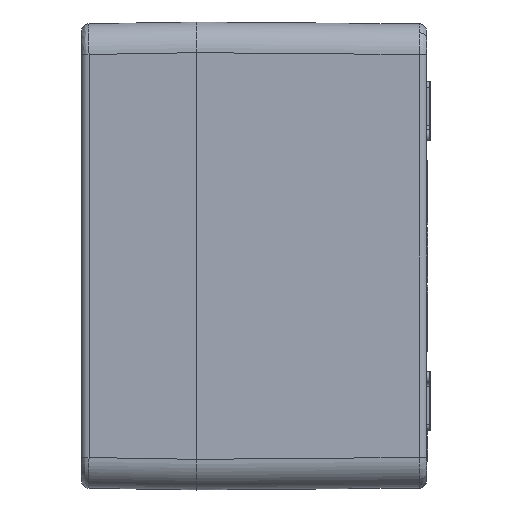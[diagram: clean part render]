
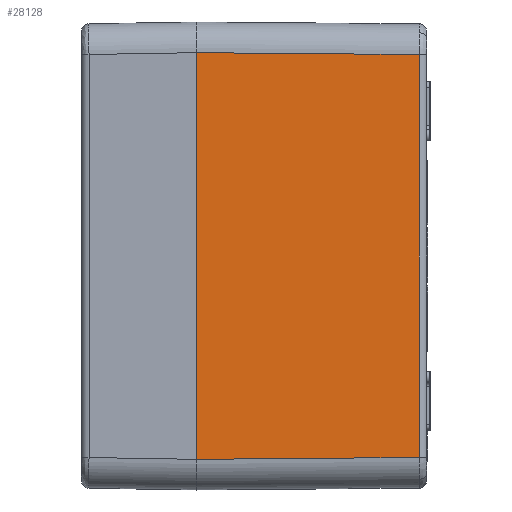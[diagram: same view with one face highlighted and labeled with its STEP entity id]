
A CAD part, left-side view. The second image highlights one B-rep face of the part: STEP entity #28128.
In plain terms, the highlighted planar face has unit normal (-1, -0.008, 0) as drawn and (1, -0.008, 0) by its records, which use the part's own axes.
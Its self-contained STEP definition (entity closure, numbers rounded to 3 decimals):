
#6386=DIRECTION('',(0.,0.,1.));
#6387=VECTOR('',#6386,106.001);
#6388=CARTESIAN_POINT('',(110.,0.,-53.));
#6389=LINE('',#6388,#6387);
#6399=CARTESIAN_POINT('',(110.,0.,53.));
#7207=DIRECTION('',(0.,0.,1.));
#7208=VECTOR('',#7207,105.034);
#7209=CARTESIAN_POINT('',(109.517,-58.017,
-52.517));
#7210=LINE('',#7209,#7208);
#7214=DIRECTION('',(0.008,1.,0.008));
#7215=VECTOR('',#7214,58.021);
#7216=CARTESIAN_POINT('',(109.516,-58.017,52.517));
#7217=LINE('',#7216,#7215);
#7221=DIRECTION('',(0.008,1.,-0.008));
#7222=VECTOR('',#7221,58.021);
#7223=CARTESIAN_POINT('',(109.517,-58.017,
-52.517));
#7224=LINE('',#7223,#7222);
#7239=CARTESIAN_POINT('',(109.516,-58.017,52.517));
#22972=VERTEX_POINT('',#6399);
#22975=CARTESIAN_POINT('',(110.,0.,-53.));
#22976=VERTEX_POINT('',#22975);
#23021=VERTEX_POINT('',#7239);
#23024=CARTESIAN_POINT('',(109.517,-58.017,
-52.517));
#23025=VERTEX_POINT('',#23024);
#28115=CARTESIAN_POINT('',(109.75,-30.,0.));
#28116=DIRECTION('',(1.,-0.008,0.));
#28117=DIRECTION('',(0.008,1.,0.));
#28118=AXIS2_PLACEMENT_3D('',#28115,#28116,#28117);
#28119=PLANE('',#28118);
#28120=ORIENTED_EDGE('',*,*,#28109,.T.);
#28122=ORIENTED_EDGE('',*,*,#28121,.T.);
#28123=ORIENTED_EDGE('',*,*,#27142,.F.);
#28125=ORIENTED_EDGE('',*,*,#28124,.F.);
#28126=EDGE_LOOP('',(#28120,#28122,#28123,#28125));
#28127=FACE_OUTER_BOUND('',#28126,.F.);
#27142=EDGE_CURVE('',#22976,#22972,#6389,.T.);
#28109=EDGE_CURVE('',#23025,#23021,#7210,.T.);
#28121=EDGE_CURVE('',#23021,#22972,#7217,.T.);
#28124=EDGE_CURVE('',#23025,#22976,#7224,.T.);
#28128=ADVANCED_FACE('',(#28127),#28119,.T.);
